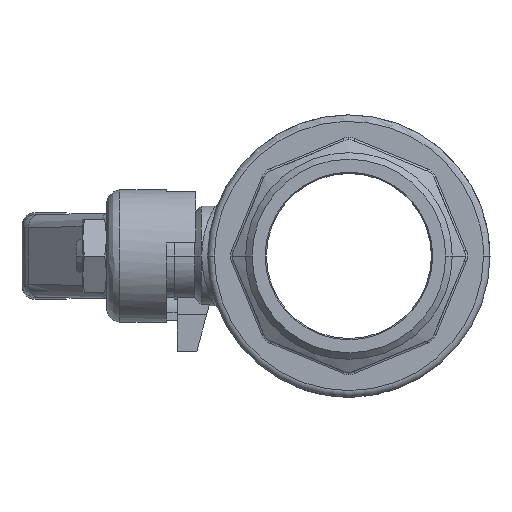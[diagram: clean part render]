
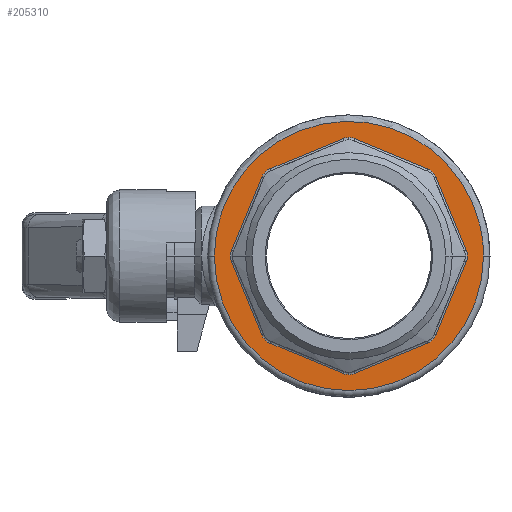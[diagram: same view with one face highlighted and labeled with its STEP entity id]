
A CAD part, left-side view. The second image highlights one B-rep face of the part: STEP entity #205310.
In plain terms, the highlighted planar face has unit normal (-1, 0, 0) as drawn and (1, 0, 0) by its records, which use the part's own axes.
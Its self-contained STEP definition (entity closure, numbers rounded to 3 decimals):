
#2220=CARTESIAN_POINT('',(28.25,-27.046,-1.339));
#2230=VERTEX_POINT('',#2220);
#2260=CARTESIAN_POINT('',(28.25,-23.813,0.)
);
#2270=DIRECTION('',(1.,0.,0.));
#2280=DIRECTION('',(0.,0.,1.));
#2290=AXIS2_PLACEMENT_3D('',#2260,#2270,#2280);
#2300=CIRCLE('',#2290,3.5);
#2310=CARTESIAN_POINT('',(28.25,-27.046,1.339));
#2320=VERTEX_POINT('',#2310);
#2330=EDGE_CURVE('',#2320,#2230,#2300,.T.);
#85730=CARTESIAN_POINT('',(28.25,-1.339,27.046));
#85740=VERTEX_POINT('',#85730);
#85900=CARTESIAN_POINT('',(28.25,-18.177,20.072));
#85910=VERTEX_POINT('',#85900);
#85940=CARTESIAN_POINT('',(28.25,0.,27.601));
#85950=DIRECTION('',(0.,0.924,
0.383));
#85960=VECTOR('',#85950,1.);
#85970=LINE('',#85940,#85960);
#85980=EDGE_CURVE('',#85910,#85740,#85970,.T.);
#126450=CARTESIAN_POINT('',(28.25,31.,0.));
#126460=VERTEX_POINT('',#126450);
#126630=CARTESIAN_POINT('',(28.25,-31.,0.));
#126640=VERTEX_POINT('',#126630);
#126670=CARTESIAN_POINT('',(28.25,0.,0.));
#126680=DIRECTION('',(-1.,0.,0.));
#126690=DIRECTION('',(0.,-1.,0.));
#126700=AXIS2_PLACEMENT_3D('',#126670,#126680,#126690);
#126710=CIRCLE('',#126700,31.);
#126720=CARTESIAN_POINT('',(28.25,-30.112,-7.368));
#126730=VERTEX_POINT('',#126720);
#126740=EDGE_CURVE('',#126730,#126640,#126710,.T.);
#126760=EDGE_CURVE('',#126460,#126730,#126710,.T.);
#203930=CARTESIAN_POINT('',(28.25,-29.65,0.));
#203940=DIRECTION('',(1.,0.,0.));
#203950=DIRECTION('',(0.,1.,0.));
#203960=AXIS2_PLACEMENT_3D('',#203930,#203940,#203950);
#203970=PLANE('',#203960);
#203980=ORIENTED_EDGE('',*,*,#126740,.F.);
#203990=EDGE_CURVE('',#126640,#126460,#126710,.T.);
#204000=ORIENTED_EDGE('',*,*,#203990,.F.);
#204010=ORIENTED_EDGE('',*,*,#126760,.F.);
#204020=EDGE_LOOP('',(#204010,#204000,#203980));
#204030=FACE_OUTER_BOUND('',#204020,.T.);
#204040=CARTESIAN_POINT('',(28.25,16.838,-16.838));
#204050=DIRECTION('',(-1.,0.,0.));
#204060=DIRECTION('',(0.,0.,-1.));
#204070=AXIS2_PLACEMENT_3D('',#204040,#204050,#204060);
#204080=CIRCLE('',#204070,3.5);
#204090=CARTESIAN_POINT('',(28.25,20.072,-18.177));
#204100=VERTEX_POINT('',#204090);
#204110=CARTESIAN_POINT('',(28.25,18.177,-20.072));
#204120=VERTEX_POINT('',#204110);
#204130=EDGE_CURVE('',#204100,#204120,#204080,.T.);
#204140=ORIENTED_EDGE('',*,*,#204130,.T.);
#204150=CARTESIAN_POINT('',(28.25,27.601,0.
));
#204160=DIRECTION('',(0.,-0.383,
-0.924));
#204170=VECTOR('',#204160,1.);
#204180=LINE('',#204150,#204170);
#204190=CARTESIAN_POINT('',(28.25,27.046,-1.339));
#204200=VERTEX_POINT('',#204190);
#204210=EDGE_CURVE('',#204200,#204100,#204180,.T.);
#204220=ORIENTED_EDGE('',*,*,#204210,.T.);
#204230=CARTESIAN_POINT('',(28.25,23.813,0.)
);
#204240=DIRECTION('',(-1.,0.,0.));
#204250=DIRECTION('',(0.,0.,-1.));
#204260=AXIS2_PLACEMENT_3D('',#204230,#204240,#204250);
#204270=CIRCLE('',#204260,3.5);
#204280=CARTESIAN_POINT('',(28.25,27.046,1.339));
#204290=VERTEX_POINT('',#204280);
#204300=EDGE_CURVE('',#204290,#204200,#204270,.T.);
#204310=ORIENTED_EDGE('',*,*,#204300,.T.);
#204320=CARTESIAN_POINT('',(28.25,27.601,0.
));
#204330=DIRECTION('',(0.,0.383,
-0.924));
#204340=VECTOR('',#204330,1.);
#204350=LINE('',#204320,#204340);
#204360=CARTESIAN_POINT('',(28.25,20.072,18.177));
#204370=VERTEX_POINT('',#204360);
#204380=EDGE_CURVE('',#204370,#204290,#204350,.T.);
#204390=ORIENTED_EDGE('',*,*,#204380,.T.);
#204400=CARTESIAN_POINT('',(28.25,16.838,16.838));
#204410=DIRECTION('',(1.,0.,0.));
#204420=DIRECTION('',(0.,0.,1.));
#204430=AXIS2_PLACEMENT_3D('',#204400,#204410,#204420);
#204440=CIRCLE('',#204430,3.5);
#204450=CARTESIAN_POINT('',(28.25,18.177,20.072));
#204460=VERTEX_POINT('',#204450);
#204470=EDGE_CURVE('',#204370,#204460,#204440,.T.);
#204480=ORIENTED_EDGE('',*,*,#204470,.F.);
#204490=CARTESIAN_POINT('',(28.25,0.,27.601));
#204500=DIRECTION('',(0.,0.924,
-0.383));
#204510=VECTOR('',#204500,1.);
#204520=LINE('',#204490,#204510);
#204530=CARTESIAN_POINT('',(28.25,1.339,27.046));
#204540=VERTEX_POINT('',#204530);
#204550=EDGE_CURVE('',#204540,#204460,#204520,.T.);
#204560=ORIENTED_EDGE('',*,*,#204550,.T.);
#204570=CARTESIAN_POINT('',(28.25,0.,23.813)
);
#204580=DIRECTION('',(-1.,0.,0.));
#204590=DIRECTION('',(0.,0.,-1.));
#204600=AXIS2_PLACEMENT_3D('',#204570,#204580,#204590);
#204610=CIRCLE('',#204600,3.5);
#204620=CARTESIAN_POINT('',(28.25,0.,27.313)
);
#204630=VERTEX_POINT('',#204620);
#204640=EDGE_CURVE('',#204630,#204540,#204610,.T.);
#204650=ORIENTED_EDGE('',*,*,#204640,.T.);
#204660=EDGE_CURVE('',#85740,#204630,#204610,.T.);
#204670=ORIENTED_EDGE('',*,*,#204660,.T.);
#204680=ORIENTED_EDGE('',*,*,#85980,.T.);
#204690=CARTESIAN_POINT('',(28.25,-16.838,16.838));
#204700=DIRECTION('',(-1.,0.,0.));
#204710=DIRECTION('',(0.,0.,-1.));
#204720=AXIS2_PLACEMENT_3D('',#204690,#204700,#204710);
#204730=CIRCLE('',#204720,3.5);
#204740=CARTESIAN_POINT('',(28.25,-20.072,18.177));
#204750=VERTEX_POINT('',#204740);
#204760=EDGE_CURVE('',#204750,#85910,#204730,.T.);
#204770=ORIENTED_EDGE('',*,*,#204760,.T.);
#204780=CARTESIAN_POINT('',(28.25,-27.601,0.
));
#204790=DIRECTION('',(0.,0.383,
0.924));
#204800=VECTOR('',#204790,1.);
#204810=LINE('',#204780,#204800);
#204820=EDGE_CURVE('',#2320,#204750,#204810,.T.);
#204830=ORIENTED_EDGE('',*,*,#204820,.T.);
#204840=ORIENTED_EDGE('',*,*,#2330,.F.);
#204850=CARTESIAN_POINT('',(28.25,-27.601,0.
));
#204860=DIRECTION('',(0.,-0.383,
0.924));
#204870=VECTOR('',#204860,1.);
#204880=LINE('',#204850,#204870);
#204890=CARTESIAN_POINT('',(28.25,-20.072,-18.177));
#204900=VERTEX_POINT('',#204890);
#204910=EDGE_CURVE('',#204900,#2230,#204880,.T.);
#204920=ORIENTED_EDGE('',*,*,#204910,.T.);
#204930=CARTESIAN_POINT('',(28.25,-16.838,-16.838));
#204940=DIRECTION('',(-1.,0.,0.));
#204950=DIRECTION('',(0.,0.,-1.));
#204960=AXIS2_PLACEMENT_3D('',#204930,#204940,#204950);
#204970=CIRCLE('',#204960,3.5);
#204980=CARTESIAN_POINT('',(28.25,-18.177,-20.072));
#204990=VERTEX_POINT('',#204980);
#205000=EDGE_CURVE('',#204990,#204900,#204970,.T.);
#205010=ORIENTED_EDGE('',*,*,#205000,.T.);
#205020=CARTESIAN_POINT('',(28.25,0.,-27.601));
#205030=DIRECTION('',(0.,-0.924,
0.383));
#205040=VECTOR('',#205030,1.);
#205050=LINE('',#205020,#205040);
#205060=CARTESIAN_POINT('',(28.25,-1.339,-27.046));
#205070=VERTEX_POINT('',#205060);
#205080=EDGE_CURVE('',#205070,#204990,#205050,.T.);
#205090=ORIENTED_EDGE('',*,*,#205080,.T.);
#205100=CARTESIAN_POINT('',(28.25,0.,
-23.813));
#205110=DIRECTION('',(1.,0.,0.));
#205120=DIRECTION('',(0.,0.,1.));
#205130=AXIS2_PLACEMENT_3D('',#205100,#205110,#205120);
#205140=CIRCLE('',#205130,3.5);
#205150=CARTESIAN_POINT('',(28.25,0.,
-27.313));
#205160=VERTEX_POINT('',#205150);
#205170=EDGE_CURVE('',#205070,#205160,#205140,.T.);
#205180=ORIENTED_EDGE('',*,*,#205170,.F.);
#205190=CARTESIAN_POINT('',(28.25,1.339,-27.046));
#205200=VERTEX_POINT('',#205190);
#205210=EDGE_CURVE('',#205160,#205200,#205140,.T.);
#205220=ORIENTED_EDGE('',*,*,#205210,.F.);
#205230=CARTESIAN_POINT('',(28.25,0.,-27.601));
#205240=DIRECTION('',(0.,-0.924,
-0.383));
#205250=VECTOR('',#205240,1.);
#205260=LINE('',#205230,#205250);
#205270=EDGE_CURVE('',#204120,#205200,#205260,.T.);
#205280=ORIENTED_EDGE('',*,*,#205270,.T.);
#205290=EDGE_LOOP('',(#205280,#205220,#205180,#205090,#205010,#204920,
#204840,#204830,#204770,#204680,#204670,#204650,#204560,#204480,#204390,
#204310,#204220,#204140));
#205300=FACE_BOUND('',#205290,.T.);
#205310=ADVANCED_FACE('',(#204030,#205300),#203970,.T.);
